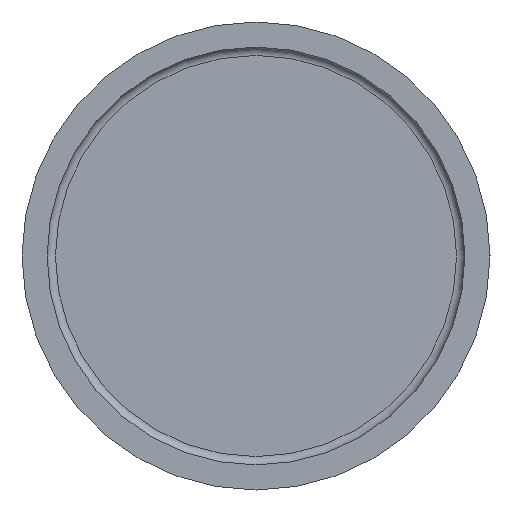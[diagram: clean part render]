
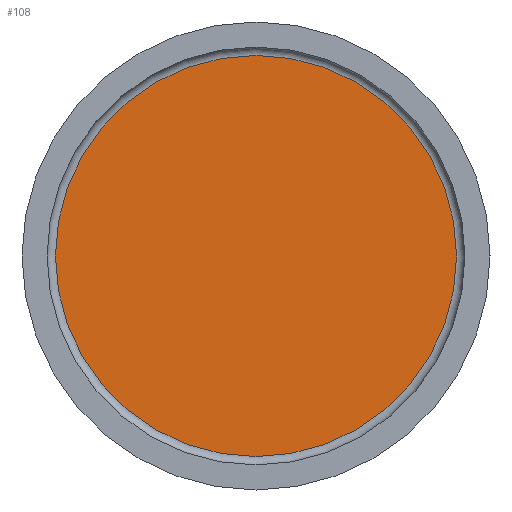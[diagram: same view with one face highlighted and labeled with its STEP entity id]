
A CAD part, left-side view. The second image highlights one B-rep face of the part: STEP entity #108.
In plain terms, the highlighted planar face has unit normal (-1, 0, 0).
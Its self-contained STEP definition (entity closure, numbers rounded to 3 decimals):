
#15=PLANE($,#125);
#31=FACE_OUTER_BOUND($,#44,.T.);
#44=EDGE_LOOP($,(#84));
#56=CIRCLE($,#126,24.);
#64=VERTEX_POINT($,#185);
#72=EDGE_CURVE($,#64,#64,#56,.T.);
#84=ORIENTED_EDGE($,*,*,#72,.F.);
#108=ADVANCED_FACE($,(#31),#15,.T.);
#125=AXIS2_PLACEMENT_3D($,#184,#154,#155);
#126=AXIS2_PLACEMENT_3D($,#186,#156,#157);
#154=DIRECTION('center_axis',(-1.,0.,0.));
#155=DIRECTION('ref_axis',(0.,0.,1.));
#156=DIRECTION('center_axis',(1.,0.,0.));
#157=DIRECTION('ref_axis',(0.,0.,-1.));
#184=CARTESIAN_POINT('Origin',(5.,24.,0.));
#185=CARTESIAN_POINT('',(5.,24.,0.));
#186=CARTESIAN_POINT('Origin',(5.,0.,0.));
